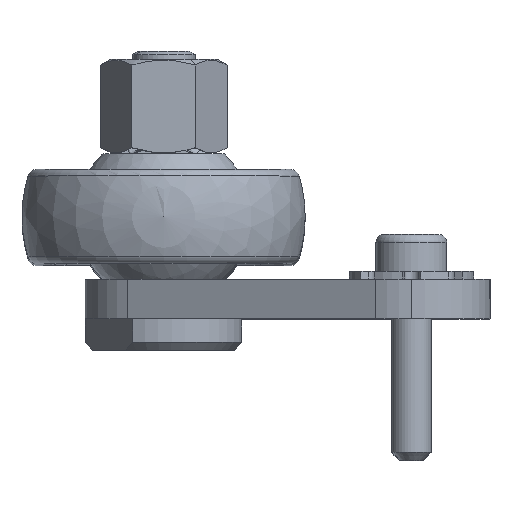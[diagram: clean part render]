
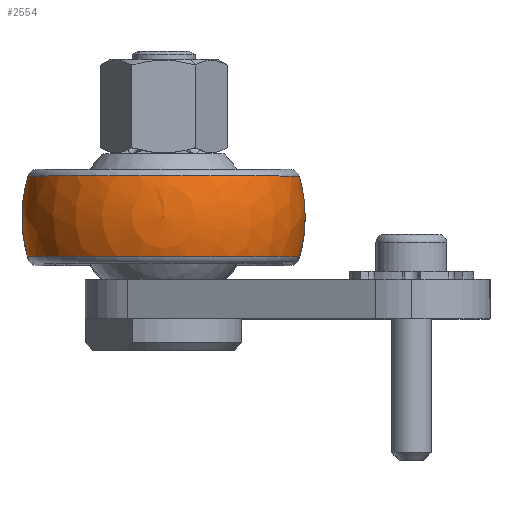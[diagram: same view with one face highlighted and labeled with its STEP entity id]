
A CAD part, top view. The second image highlights one B-rep face of the part: STEP entity #2554.
In plain terms, the highlighted spherical face has radius 9 mm.
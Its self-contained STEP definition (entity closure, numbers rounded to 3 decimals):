
#14 = AXIS2_PLACEMENT_3D ( 'NONE', #16243, #8161, #17613 ) ;
#550 = EDGE_CURVE ( 'NONE', #2133, #2323, #12363, .T. ) ;
#570 = DIRECTION ( 'NONE',  ( 0., 0., 1. ) ) ;
#810 = CARTESIAN_POINT ( 'NONE',  ( -8.625, 2.571, 0. ) ) ;
#1072 = ORIENTED_EDGE ( 'NONE', *, *, #12126, .T. ) ;
#1280 = EDGE_CURVE ( 'NONE', #17477, #3840, #11242, .T. ) ;
#1409 = CARTESIAN_POINT ( 'NONE',  ( -8.625, -2.571, 0. ) ) ;
#1517 = CARTESIAN_POINT ( 'NONE',  ( 0., 0., 0. ) ) ;
#2003 = ORIENTED_EDGE ( 'NONE', *, *, #3801, .T. ) ;
#2133 = VERTEX_POINT ( 'NONE', #14983 ) ;
#2323 = VERTEX_POINT ( 'NONE', #810 ) ;
#2378 = CIRCLE ( 'NONE', #3877, 9. ) ;
#2554 = ADVANCED_FACE ( 'NONE', ( #9128 ), #14618, .T. ) ;
#2675 = CARTESIAN_POINT ( 'NONE',  ( 0., -2.571, 0. ) ) ;
#3801 = EDGE_CURVE ( 'NONE', #17335, #11487, #9028, .T. ) ;
#3840 = VERTEX_POINT ( 'NONE', #1409 ) ;
#3877 = AXIS2_PLACEMENT_3D ( 'NONE', #5216, #14750, #6610 ) ;
#4036 = DIRECTION ( 'NONE',  ( 1., 0., 0. ) ) ;
#5216 = CARTESIAN_POINT ( 'NONE',  ( 0., 0., 0. ) ) ;
#5433 = CARTESIAN_POINT ( 'NONE',  ( -9., 0., 0. ) ) ;
#5634 = EDGE_LOOP ( 'NONE', ( #14676, #6571, #1072, #2003, #14197, #10839 ) ) ;
#6202 = CARTESIAN_POINT ( 'NONE',  ( 9., 0., 0. ) ) ;
#6571 = ORIENTED_EDGE ( 'NONE', *, *, #1280, .T. ) ;
#6610 = DIRECTION ( 'NONE',  ( -1., 0., 0. ) ) ;
#7104 = AXIS2_PLACEMENT_3D ( 'NONE', #2675, #12190, #4036 ) ;
#8124 = DIRECTION ( 'NONE',  ( 1., 0., 0. ) ) ;
#8130 = DIRECTION ( 'NONE',  ( 0., 0., -1. ) ) ;
#8161 = DIRECTION ( 'NONE',  ( 0., 0., 1. ) ) ;
#8455 = DIRECTION ( 'NONE',  ( 0., 1., 0. ) ) ;
#8709 = EDGE_CURVE ( 'NONE', #17477, #2323, #11451, .T. ) ;
#8731 = DIRECTION ( 'NONE',  ( 0., -1., 0. ) ) ;
#9028 = CIRCLE ( 'NONE', #14, 9. ) ;
#9128 = FACE_OUTER_BOUND ( 'NONE', #5634, .T. ) ;
#9476 = AXIS2_PLACEMENT_3D ( 'NONE', #1517, #16535, #8455 ) ;
#10635 = CARTESIAN_POINT ( 'NONE',  ( 8.625, -2.571, 0. ) ) ;
#10659 = AXIS2_PLACEMENT_3D ( 'NONE', #16666, #15421, #8124 ) ;
#10839 = ORIENTED_EDGE ( 'NONE', *, *, #550, .T. ) ;
#11242 = CIRCLE ( 'NONE', #10659, 9. ) ;
#11451 = CIRCLE ( 'NONE', #17427, 9. ) ;
#11487 = VERTEX_POINT ( 'NONE', #6202 ) ;
#11601 = EDGE_CURVE ( 'NONE', #2133, #11487, #2378, .T. ) ;
#12126 = EDGE_CURVE ( 'NONE', #3840, #17335, #15516, .T. ) ;
#12190 = DIRECTION ( 'NONE',  ( 0., 1., 0. ) ) ;
#12363 = CIRCLE ( 'NONE', #12704, 8.625 ) ;
#12704 = AXIS2_PLACEMENT_3D ( 'NONE', #16811, #8731, #570 ) ;
#14197 = ORIENTED_EDGE ( 'NONE', *, *, #11601, .F. ) ;
#14618 = SPHERICAL_SURFACE ( 'NONE', #9476, 9. ) ;
#14676 = ORIENTED_EDGE ( 'NONE', *, *, #8709, .F. ) ;
#14750 = DIRECTION ( 'NONE',  ( 0., 0., -1. ) ) ;
#14983 = CARTESIAN_POINT ( 'NONE',  ( 8.625, 2.571, 0. ) ) ;
#15421 = DIRECTION ( 'NONE',  ( 0., 0., 1. ) ) ;
#15516 = CIRCLE ( 'NONE', #7104, 8.625 ) ;
#16209 = CARTESIAN_POINT ( 'NONE',  ( 0., 0., 0. ) ) ;
#16243 = CARTESIAN_POINT ( 'NONE',  ( 0., 0., 0. ) ) ;
#16535 = DIRECTION ( 'NONE',  ( 0., 0., 1. ) ) ;
#16666 = CARTESIAN_POINT ( 'NONE',  ( 0., 0., 0. ) ) ;
#16811 = CARTESIAN_POINT ( 'NONE',  ( 0., 2.571, 0. ) ) ;
#17335 = VERTEX_POINT ( 'NONE', #10635 ) ;
#17427 = AXIS2_PLACEMENT_3D ( 'NONE', #16209, #8130, #17574 ) ;
#17477 = VERTEX_POINT ( 'NONE', #5433 ) ;
#17574 = DIRECTION ( 'NONE',  ( -1., 0., 0. ) ) ;
#17613 = DIRECTION ( 'NONE',  ( 1., 0., 0. ) ) ;
